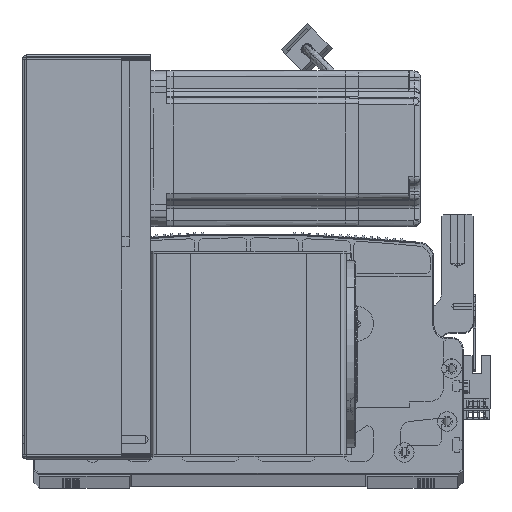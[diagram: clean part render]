
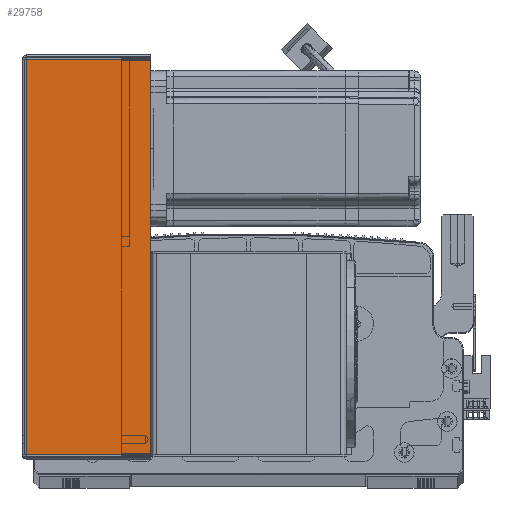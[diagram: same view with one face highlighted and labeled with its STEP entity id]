
A CAD part, top view. The second image highlights one B-rep face of the part: STEP entity #29758.
In plain terms, the highlighted planar face has unit normal (0, 0, 1) as drawn and (0, 1, 0) by its records, which use the part's own axes.
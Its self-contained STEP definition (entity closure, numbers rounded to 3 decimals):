
#2543 = AXIS2_PLACEMENT_3D ( 'NONE', #16938, #25636, #8573 ) ;
#2560 = LINE ( 'NONE', #4076, #46178 ) ;
#4076 = CARTESIAN_POINT ( 'NONE',  ( 64.5, 107.5, -204. ) ) ;
#8573 = DIRECTION ( 'NONE',  ( 1., 0., 0. ) ) ;
#10250 = CARTESIAN_POINT ( 'NONE',  ( 64.5, 107.5, -203.293 ) ) ;
#16938 = CARTESIAN_POINT ( 'NONE',  ( 0., 107.5, 0. ) ) ;
#17084 = ORIENTED_EDGE ( 'NONE', *, *, #26929, .F. ) ;
#19442 = CARTESIAN_POINT ( 'NONE',  ( 0., 107.5, -0.707 ) ) ;
#25636 = DIRECTION ( 'NONE',  ( 0., -1., 0. ) ) ;
#26037 = CARTESIAN_POINT ( 'NONE',  ( 64.5, 107.5, -0.707 ) ) ;
#26929 = EDGE_CURVE ( 'NONE', #47062, #69404, #28574, .T. ) ;
#28574 = LINE ( 'NONE', #55362, #47291 ) ;
#28753 = VECTOR ( 'NONE', #35495, 1000. ) ;
#29758 = ADVANCED_FACE ( 'NONE', ( #49318 ), #73441, .F. ) ;
#34584 = EDGE_CURVE ( 'NONE', #76953, #69404, #2560, .T. ) ;
#34926 = EDGE_LOOP ( 'NONE', ( #37011, #44177, #46691, #17084 ) ) ;
#35495 = DIRECTION ( 'NONE',  ( 1., 0., 0. ) ) ;
#37011 = ORIENTED_EDGE ( 'NONE', *, *, #103091, .F. ) ;
#44177 = ORIENTED_EDGE ( 'NONE', *, *, #51515, .T. ) ;
#46178 = VECTOR ( 'NONE', #92232, 1000. ) ;
#46414 = DIRECTION ( 'NONE',  ( 0., 0., -1. ) ) ;
#46691 = ORIENTED_EDGE ( 'NONE', *, *, #34584, .T. ) ;
#47062 = VERTEX_POINT ( 'NONE', #86821 ) ;
#47291 = VECTOR ( 'NONE', #72821, 1000. ) ;
#49318 = FACE_OUTER_BOUND ( 'NONE', #34926, .T. ) ;
#51139 = LINE ( 'NONE', #19442, #28753 ) ;
#51152 = CARTESIAN_POINT ( 'NONE',  ( 0.737, 107.5, -0.707 ) ) ;
#51515 = EDGE_CURVE ( 'NONE', #61062, #76953, #51139, .T. ) ;
#55362 = CARTESIAN_POINT ( 'NONE',  ( 0., 107.5, -203.293 ) ) ;
#61062 = VERTEX_POINT ( 'NONE', #51152 ) ;
#62691 = VECTOR ( 'NONE', #46414, 1000. ) ;
#69404 = VERTEX_POINT ( 'NONE', #10250 ) ;
#72821 = DIRECTION ( 'NONE',  ( 1., 0., 0. ) ) ;
#73441 = PLANE ( 'NONE',  #2543 ) ;
#75186 = LINE ( 'NONE', #94465, #62691 ) ;
#76953 = VERTEX_POINT ( 'NONE', #26037 ) ;
#86821 = CARTESIAN_POINT ( 'NONE',  ( 0.737, 107.5, -203.293 ) ) ;
#92232 = DIRECTION ( 'NONE',  ( 0., 0., -1. ) ) ;
#94465 = CARTESIAN_POINT ( 'NONE',  ( 0.737, 107.5, 0. ) ) ;
#103091 = EDGE_CURVE ( 'NONE', #61062, #47062, #75186, .T. ) ;
